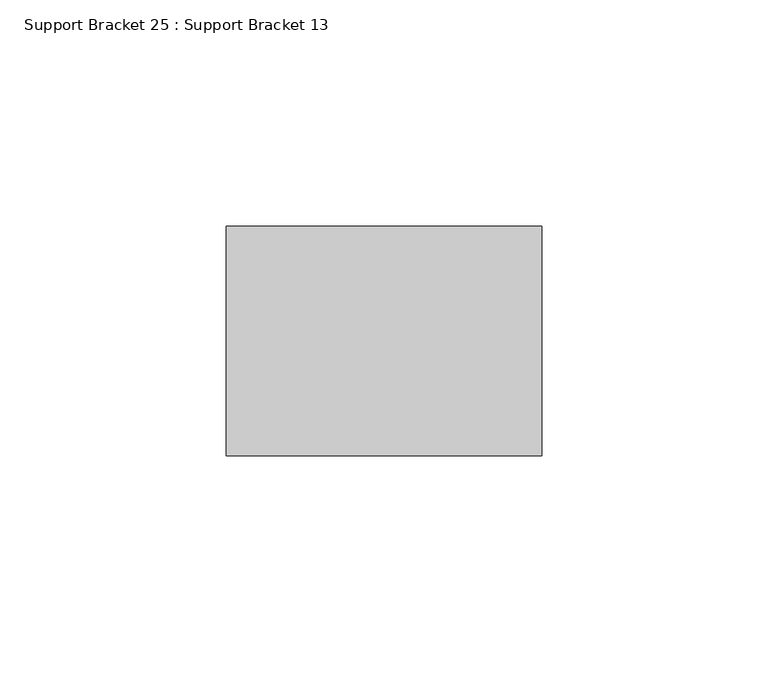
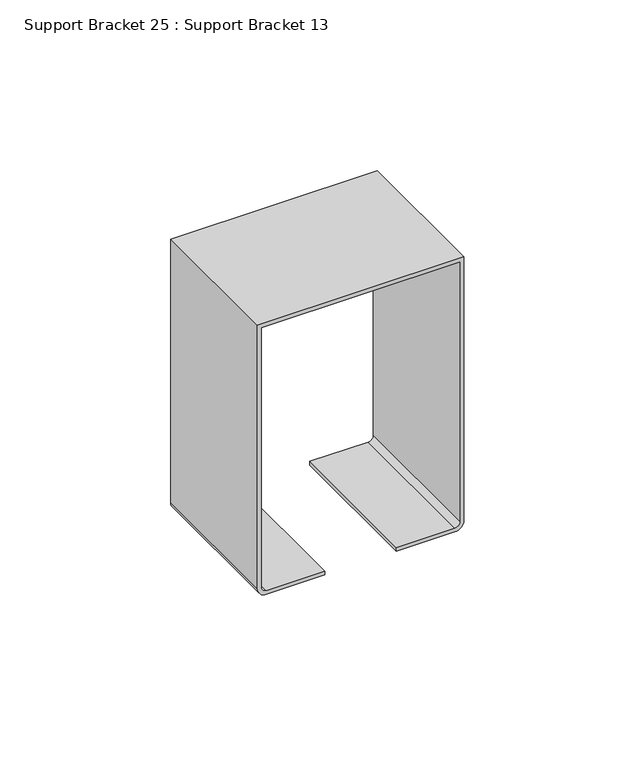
"""IFC4 building model written with IfcOpenShell, lengths in millimetres: proxy geometry, Support Bracket 25 : Support Bracket 13."""

from ifc_helpers import new_model, si_unit, point, frame, frame_2d, origin, place, context, project, spatial, polyline, circle_curve, trimmed, segment, composite_curve, outline, extrude, source, transform, mapped, element, save


def support_bracket_25_support_bracket_13_f6224672(model_context):
    return source(origin(), model_context, "Body", "SweptSolid", [
        extrude(outline(composite_curve([segment(polyline([(920.623, 11742.5938902), (1014.8371562, 11742.5938902), (1014.8371562, 11672.7438902), (920.623, 11672.7438902)]), True, "CONTINUOUS"), segment(trimmed(circle_curve(frame_2d((920.623, 11675.7918902)), 3.048), [point((920.623, 11672.7438902))], [point((917.575, 11675.7918902))], False, "CARTESIAN"), True, "CONTINUOUS"), segment(polyline([(917.575, 11675.7918902), (917.575, 11695.5642027), (918.8648437, 11695.5642027), (918.8648437, 11675.7918902)]), True, "CONTINUOUS"), segment(trimmed(circle_curve(frame_2d((920.623, 11675.7918902)), 1.7581563), [point((918.8648437, 11675.7918902))], [point((920.623, 11674.033734))], True, "CARTESIAN"), True, "CONTINUOUS"), segment(polyline([(920.623, 11674.033734), (1013.5473125, 11674.033734), (1013.5473125, 11741.3040465), (920.623, 11741.3040465)]), True, "CONTINUOUS"), segment(trimmed(circle_curve(frame_2d((920.623, 11739.5458902)), 1.7581563), [point((920.623, 11741.3040465))], [point((918.8648437, 11739.5458902))], True, "CARTESIAN"), True, "CONTINUOUS"), segment(polyline([(918.8648437, 11739.5458902), (918.8648438, 11719.7735777), (917.575, 11719.7735777), (917.575, 11739.5458902)]), True, "CONTINUOUS"), segment(trimmed(circle_curve(frame_2d((920.623, 11739.5458902)), 3.048), [point((917.575, 11739.5458902))], [point((920.623, 11742.5938902))], False, "CARTESIAN"), True, "CONTINUOUS")], self_intersect=False)), frame((0.0, 2793.0418866, 0.0), z_axis=(0.0, 1.0, 0.0), x_axis=(0.0, 0.0, 1.0)), (0.0, 0.0, 1.0), 50.8),
    ])


if __name__ == "__main__":
    model = new_model("IFC4")
    model_context = context("Model", 3, world=origin())
    ifc_project = project(units=[si_unit("LENGTHUNIT", "METRE", prefix="MILLI")], contexts=[model_context])
    site = spatial("IfcSite", under=ifc_project)
    building = spatial("IfcBuilding", under=site)
    placement = place(None, origin())
    support_bracket_25_support_bracket_13_shape = support_bracket_25_support_bracket_13_f6224672(model_context)
    element("IfcBuildingElementProxy", 1, Name="Support Bracket 25 : Support Bracket 13", ObjectType="Support Bracket 25 : Support Bracket 13", at=placement, inside=building, context=model_context, shape_type="MappedRepresentation", body=[
        mapped(support_bracket_25_support_bracket_13_shape, transform((0.0, 0.0, 0.0), x_axis=(1.0, 0.0, 0.0), y_axis=(0.0, 1.0, 0.0), z_axis=(0.0, 0.0, 1.0))),
    ])
    save(model, "model.ifc")
